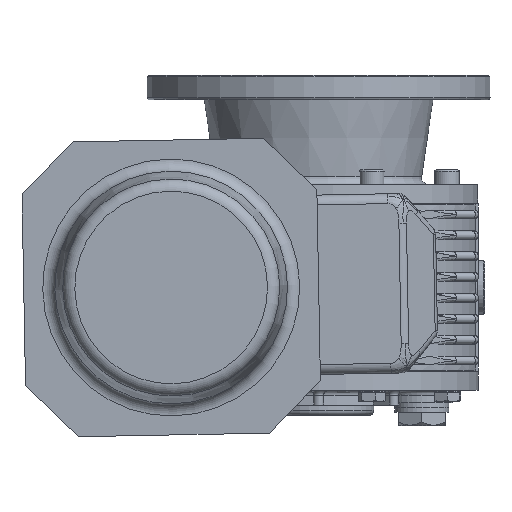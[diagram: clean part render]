
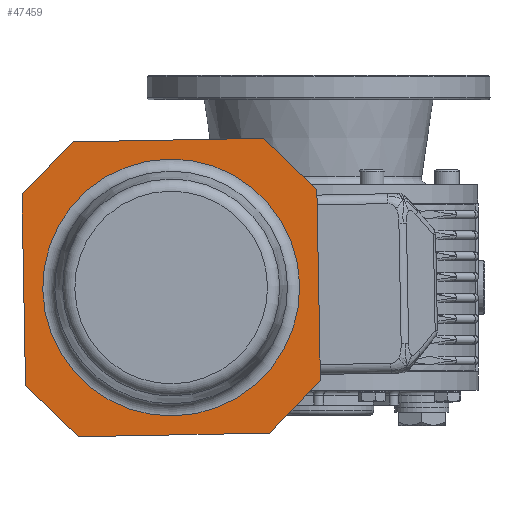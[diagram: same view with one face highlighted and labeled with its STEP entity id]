
A CAD part, left-side view. The second image highlights one B-rep face of the part: STEP entity #47459.
In plain terms, the highlighted planar face has unit normal (-1, 0, 0) as drawn and (1, 0, 0) by its records, which use the part's own axes.
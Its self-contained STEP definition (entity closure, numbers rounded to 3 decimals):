
#47353=CARTESIAN_POINT('',(176.0,0.,52.284));
#47354=VERTEX_POINT('',#47353);
#47355=CARTESIAN_POINT('',(176.0,0.0,0.0));
#47356=DIRECTION('',(1.0,0.0,0.0));
#47357=DIRECTION('',(0.0,0.0,-1.0));
#47358=AXIS2_PLACEMENT_3D('',#47355,#47356,#47357);
#47359=CIRCLE('',#47358,52.284);
#47360=EDGE_CURVE('',#47354,#47354,#47359,.T.);
#47385=CARTESIAN_POINT('',(176.0,26.4,0.0));
#47386=DIRECTION('',(1.0,0.0,0.0));
#47387=DIRECTION('',(0.0,0.0,-1.0));
#47388=AXIS2_PLACEMENT_3D('',#47385,#47386,#47387);
#47389=PLANE('',#47388);
#47390=CARTESIAN_POINT('',(176.0,-60.0,38.787));
#47391=VERTEX_POINT('',#47390);
#47392=CARTESIAN_POINT('',(176.0,-38.787,60.0));
#47393=VERTEX_POINT('',#47392);
#47394=CARTESIAN_POINT('',(176.0,-60.0,38.787));
#47395=DIRECTION('',(0.0,0.707,0.707));
#47396=VECTOR('',#47395,30.);
#47397=LINE('',#47394,#47396);
#47398=EDGE_CURVE('',#47391,#47393,#47397,.T.);
#47399=ORIENTED_EDGE('',*,*,#47398,.F.);
#47400=CARTESIAN_POINT('',(176.0,-60.0,-38.787));
#47401=VERTEX_POINT('',#47400);
#47402=CARTESIAN_POINT('',(176.0,-60.0,-38.787));
#47403=DIRECTION('',(0.0,0.0,1.0));
#47404=VECTOR('',#47403,77.574);
#47405=LINE('',#47402,#47404);
#47406=EDGE_CURVE('',#47401,#47391,#47405,.T.);
#47407=ORIENTED_EDGE('',*,*,#47406,.F.);
#47408=CARTESIAN_POINT('',(176.0,-38.787,-60.0));
#47409=VERTEX_POINT('',#47408);
#47410=CARTESIAN_POINT('',(176.0,-38.787,-60.0));
#47411=DIRECTION('',(0.0,-0.707,0.707));
#47412=VECTOR('',#47411,30.);
#47413=LINE('',#47410,#47412);
#47414=EDGE_CURVE('',#47409,#47401,#47413,.T.);
#47415=ORIENTED_EDGE('',*,*,#47414,.F.);
#47416=CARTESIAN_POINT('',(176.0,38.787,-60.0));
#47417=VERTEX_POINT('',#47416);
#47418=CARTESIAN_POINT('',(176.0,38.787,-60.0));
#47419=DIRECTION('',(0.0,-1.0,0.0));
#47420=VECTOR('',#47419,77.574);
#47421=LINE('',#47418,#47420);
#47422=EDGE_CURVE('',#47417,#47409,#47421,.T.);
#47423=ORIENTED_EDGE('',*,*,#47422,.F.);
#47424=CARTESIAN_POINT('',(176.0,60.0,-38.787));
#47425=VERTEX_POINT('',#47424);
#47426=CARTESIAN_POINT('',(176.0,60.0,-38.787));
#47427=DIRECTION('',(0.0,-0.707,-0.707));
#47428=VECTOR('',#47427,30.);
#47429=LINE('',#47426,#47428);
#47430=EDGE_CURVE('',#47425,#47417,#47429,.T.);
#47431=ORIENTED_EDGE('',*,*,#47430,.F.);
#47432=CARTESIAN_POINT('',(176.0,60.0,38.787));
#47433=VERTEX_POINT('',#47432);
#47434=CARTESIAN_POINT('',(176.0,60.0,38.787));
#47435=DIRECTION('',(0.0,0.0,-1.0));
#47436=VECTOR('',#47435,77.574);
#47437=LINE('',#47434,#47436);
#47438=EDGE_CURVE('',#47433,#47425,#47437,.T.);
#47439=ORIENTED_EDGE('',*,*,#47438,.F.);
#47440=CARTESIAN_POINT('',(176.0,38.787,60.0));
#47441=VERTEX_POINT('',#47440);
#47442=CARTESIAN_POINT('',(176.0,38.787,60.0));
#47443=DIRECTION('',(0.0,0.707,-0.707));
#47444=VECTOR('',#47443,30.);
#47445=LINE('',#47442,#47444);
#47446=EDGE_CURVE('',#47441,#47433,#47445,.T.);
#47447=ORIENTED_EDGE('',*,*,#47446,.F.);
#47448=CARTESIAN_POINT('',(176.0,-38.787,60.0));
#47449=DIRECTION('',(0.0,1.0,0.0));
#47450=VECTOR('',#47449,77.574);
#47451=LINE('',#47448,#47450);
#47452=EDGE_CURVE('',#47393,#47441,#47451,.T.);
#47453=ORIENTED_EDGE('',*,*,#47452,.F.);
#47454=EDGE_LOOP('',(#47399,#47407,#47415,#47423,#47431,#47439,#47447,#47453));
#47455=FACE_OUTER_BOUND('',#47454,.T.);
#47456=ORIENTED_EDGE('',*,*,#47360,.F.);
#47457=EDGE_LOOP('',(#47456));
#47458=FACE_BOUND('',#47457,.T.);
#47459=ADVANCED_FACE('',(#47455,#47458),#47389,.T.);
